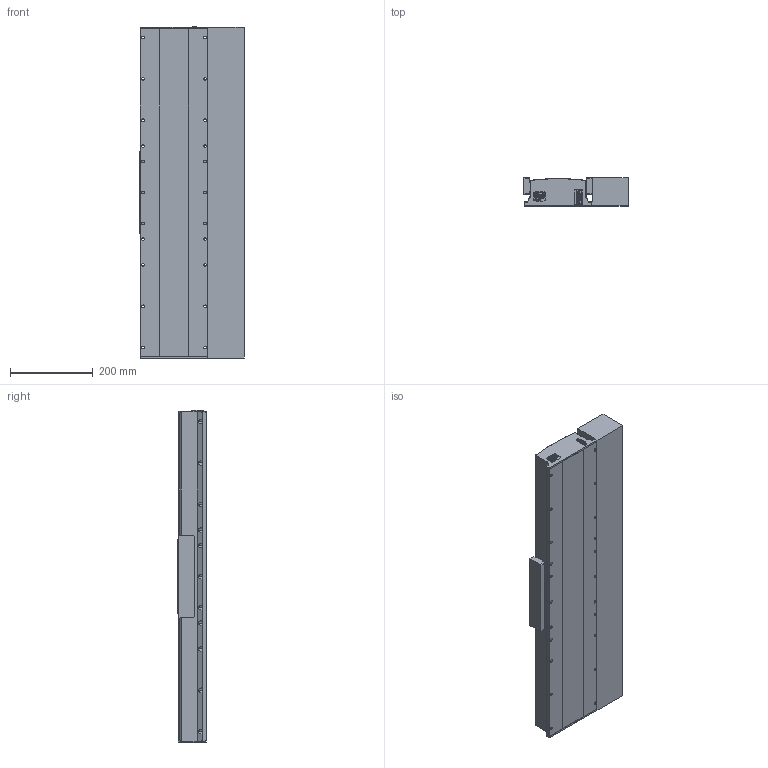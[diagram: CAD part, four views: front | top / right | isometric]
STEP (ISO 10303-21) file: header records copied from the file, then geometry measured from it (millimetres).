
FILE_DESCRIPTION((''),'2;1');
FILE_NAME('WEB_PROJEKT_PLT165_ED_00011340_ASM','2018-11-08T',('Mrochen'),(''),'PRO/ENGINEER BY PARAMETRIC TECHNOLOGY CORPORATION, 2015280','PRO/ENGINEER BY PARAMETRIC TECHNOLOGY CORPORATION, 2015280','');
FILE_SCHEMA(('AUTOMOTIVE_DESIGN { 1 0 10303 214 1 1 1 1 }'));
Products named in the file (7): GRUNDPLATTE_500_DLM___00012216; WEB_PROJEKT_PLT165_SC_00010523; KAB_PLT165_500________00014361; 789000_010_10_LOGO_30X24X1; KT_9POL_SUB_D_STECKER; KT_SECHSKANTBOLZEN_F-GSCH1-5; WEB_PROJEKT_PLT165_ED_00011340_ASM
Assembly tree (8 placements, depth 2):
  WEB_PROJEKT_PLT165_ED_00011340_ASM
    GRUNDPLATTE_500_DLM___00012216
    WEB_PROJEKT_PLT165_SC_00010523
    KAB_PLT165_500________00014361
    789000_010_10_LOGO_30X24X1  x2
    KT_9POL_SUB_D_STECKER
    KT_SECHSKANTBOLZEN_F-GSCH1-5  x2
Bounding box: 252 x 68 x 803 mm (x, y, z)
Volume: 12567552.9 mm3; surface area: 742188.2 mm2
Topology: 8 solids, 8 shells, 2111 faces, 5668 edges, 3682 vertices
Faces by surface type: plane 1150, extrusion 544, cylinder 285, cone 78, torus 51, bspline 3
Entity records: 71633 total; most frequent: CARTESIAN_POINT 15732, ORIENTED_EDGE 9222, DIRECTION 7815, EDGE_CURVE 4611, VECTOR 3603, PRESENTATION_STYLE_ASSIGNMENT 3386, LINE 3331, STYLED_ITEM 3244
